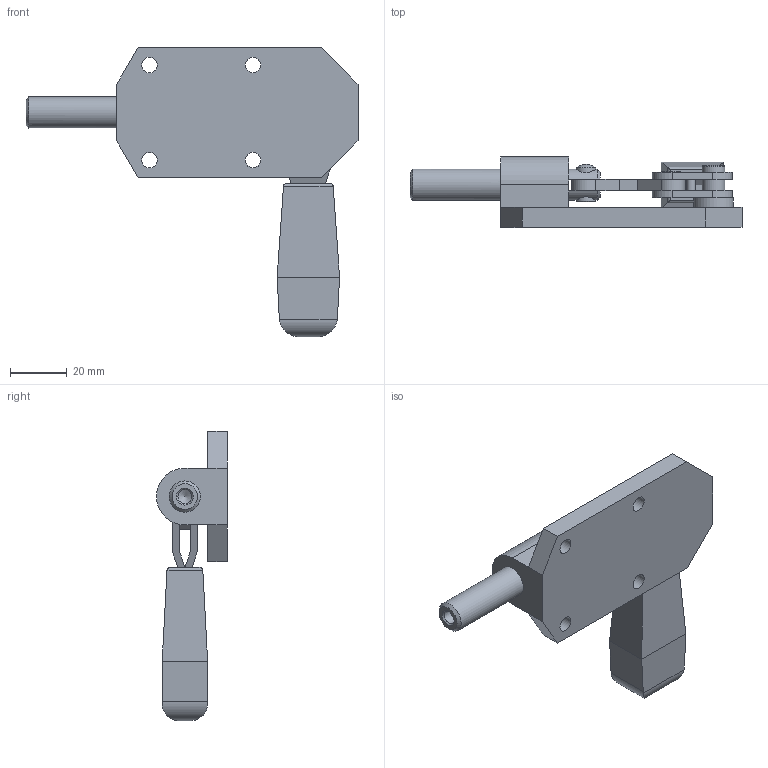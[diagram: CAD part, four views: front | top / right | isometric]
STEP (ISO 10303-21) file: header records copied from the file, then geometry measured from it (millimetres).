
FILE_DESCRIPTION( ( 'STEP AP203' ), '1' );
FILE_NAME( 'C:/Temp/Ganter_Step_05_03_2020/data/2_4/gn_844/gn_844_asd/Plunger clamp GN 844-160-ASD (closed).stp', '2020-03-13T05:55:30', ( 'License CC BY-ND 4.0' ), ( 'CADENAS' ), ' ', 'PARTsolutions', ' ' );
FILE_SCHEMA( ( 'CONFIG_CONTROL_DESIGN' ) );
Length unit declared in the file: millimetre
Products named in the file (5): Plunger clamp GN 844-160-ASD (closed); _GN 844-160-ASD-1; _GN 844-160-ASD0-2; _GN 844-160-ASD0-3; _GN 844-160-ASD0-4
Assembly tree (4 placements, depth 2):
  Plunger clamp GN 844-160-ASD (closed)
    _GN 844-160-ASD-1
    _GN 844-160-ASD0-2
    _GN 844-160-ASD0-3
    _GN 844-160-ASD0-4
Bounding box: 117 x 25 x 102 mm (x, y, z)
Volume: 57790.5 mm3; surface area: 23047.9 mm2
Topology: 4 solids, 4 shells, 100 faces, 251 edges, 165 vertices
Faces by surface type: plane 56, cylinder 36, cone 7, bspline 1
Full cylindrical faces by diameter (mm): 3 x1, 4.917 x1, 5.5 x4, 7 x8, 8 x3, 11 x2, 14 x1
Entity records: 3215 total; most frequent: CARTESIAN_POINT 734, DIRECTION 486, ORIENTED_EDGE 426, EDGE_CURVE 213, AXIS2_PLACEMENT_3D 179, EDGE_LOOP 156, VERTEX_POINT 155, LINE 128
